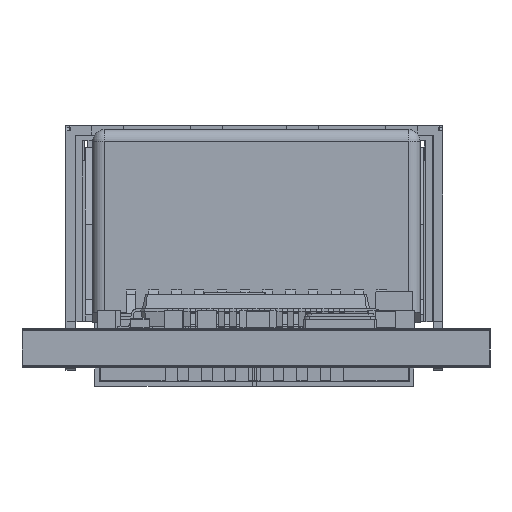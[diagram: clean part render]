
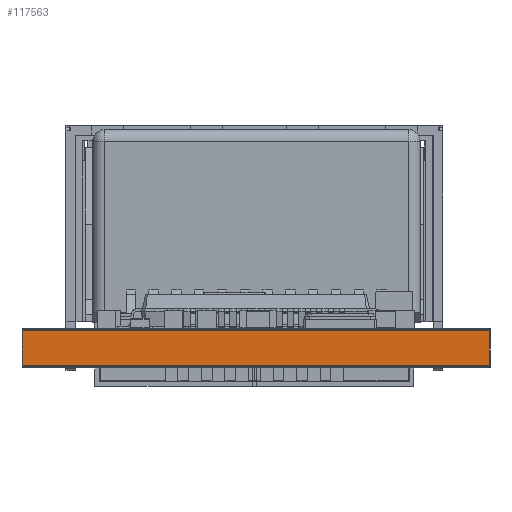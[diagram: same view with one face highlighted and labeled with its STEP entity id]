
A CAD part, left-side view. The second image highlights one B-rep face of the part: STEP entity #117563.
In plain terms, the highlighted planar face has unit normal (-1, 0, 0).
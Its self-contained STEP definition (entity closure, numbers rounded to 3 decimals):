
#116176 = VERTEX_POINT('',#116177);
#116177 = CARTESIAN_POINT('',(-31.88,10.16,0.));
#116183 = EDGE_CURVE('',#116184,#116176,#116186,.T.);
#116184 = VERTEX_POINT('',#116185);
#116185 = CARTESIAN_POINT('',(-31.88,-10.16,0.));
#116186 = LINE('',#116187,#116188);
#116187 = CARTESIAN_POINT('',(-31.88,-10.16,0.));
#116188 = VECTOR('',#116189,1.);
#116189 = DIRECTION('',(0.,1.,0.));
#116856 = VERTEX_POINT('',#116857);
#116857 = CARTESIAN_POINT('',(-31.88,10.16,1.516));
#116863 = EDGE_CURVE('',#116864,#116856,#116866,.T.);
#116864 = VERTEX_POINT('',#116865);
#116865 = CARTESIAN_POINT('',(-31.88,-10.16,1.516));
#116866 = LINE('',#116867,#116868);
#116867 = CARTESIAN_POINT('',(-31.88,-10.16,1.516));
#116868 = VECTOR('',#116869,1.);
#116869 = DIRECTION('',(0.,1.,0.));
#117533 = EDGE_CURVE('',#116176,#116856,#117534,.T.);
#117534 = LINE('',#117535,#117536);
#117535 = CARTESIAN_POINT('',(-31.88,10.16,0.));
#117536 = VECTOR('',#117537,1.);
#117537 = DIRECTION('',(0.,0.,1.));
#117563 = ADVANCED_FACE('',(#117564),#117575,.T.);
#117564 = FACE_BOUND('',#117565,.T.);
#117565 = EDGE_LOOP('',(#117566,#117572,#117573,#117574));
#117566 = ORIENTED_EDGE('',*,*,#117567,.T.);
#117567 = EDGE_CURVE('',#116184,#116864,#117568,.T.);
#117568 = LINE('',#117569,#117570);
#117569 = CARTESIAN_POINT('',(-31.88,-10.16,0.));
#117570 = VECTOR('',#117571,1.);
#117571 = DIRECTION('',(0.,0.,1.));
#117572 = ORIENTED_EDGE('',*,*,#116863,.T.);
#117573 = ORIENTED_EDGE('',*,*,#117533,.F.);
#117574 = ORIENTED_EDGE('',*,*,#116183,.F.);
#117575 = PLANE('',#117576);
#117576 = AXIS2_PLACEMENT_3D('',#117577,#117578,#117579);
#117577 = CARTESIAN_POINT('',(-31.88,-10.16,0.));
#117578 = DIRECTION('',(-1.,0.,0.));
#117579 = DIRECTION('',(0.,1.,0.));
